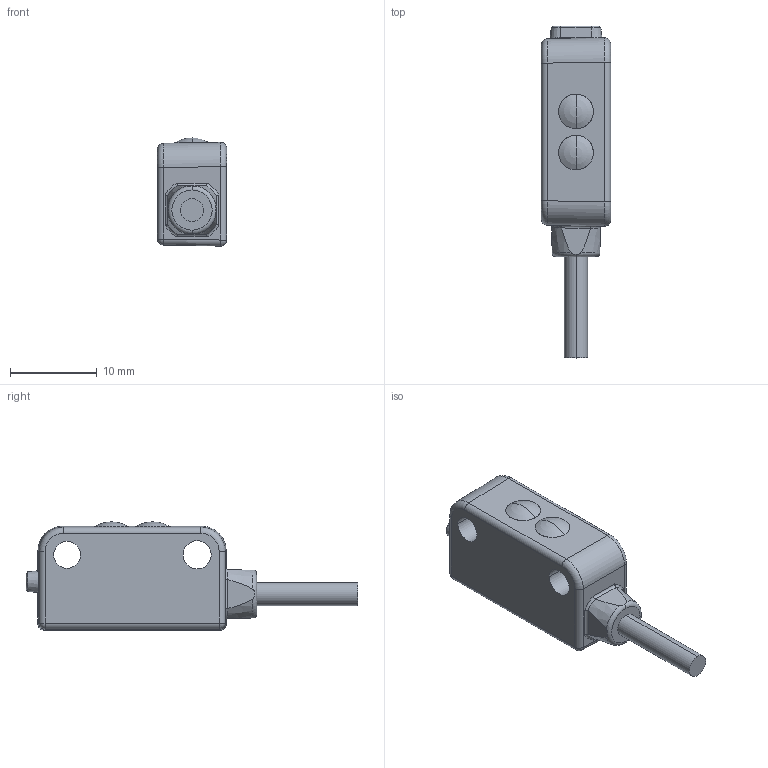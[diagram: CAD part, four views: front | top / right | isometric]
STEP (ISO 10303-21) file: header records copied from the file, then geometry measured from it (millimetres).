
FILE_DESCRIPTION((''),'2;1');
FILE_NAME('Q12LP','2010-02-23T',('jrengel'),('BANNER ENGINEERING CORP.'),'PRO/ENGINEER BY PARAMETRIC TECHNOLOGY CORPORATION, 2009460','PRO/ENGINEER BY PARAMETRIC TECHNOLOGY CORPORATION, 2009460','');
FILE_SCHEMA(('CONFIG_CONTROL_DESIGN'));
Length unit declared in the file: millimetre
Products named in the file (1): Q12LP
Bounding box: 8 x 38.31 x 12.49 mm (x, y, z)
Volume: 2067.3 mm3; surface area: 1286.7 mm2
Topology: 1 solids, 1 shells, 104 faces, 251 edges, 148 vertices
Faces by surface type: cylinder 43, plane 19, torus 16, sphere 10, bspline 10, cone 6
Entity records: 3772 total; most frequent: CARTESIAN_POINT 1422, ORIENTED_EDGE 490, DIRECTION 477, EDGE_CURVE 245, AXIS2_PLACEMENT_3D 202, VERTEX_POINT 148, EDGE_LOOP 113, CIRCLE 108
